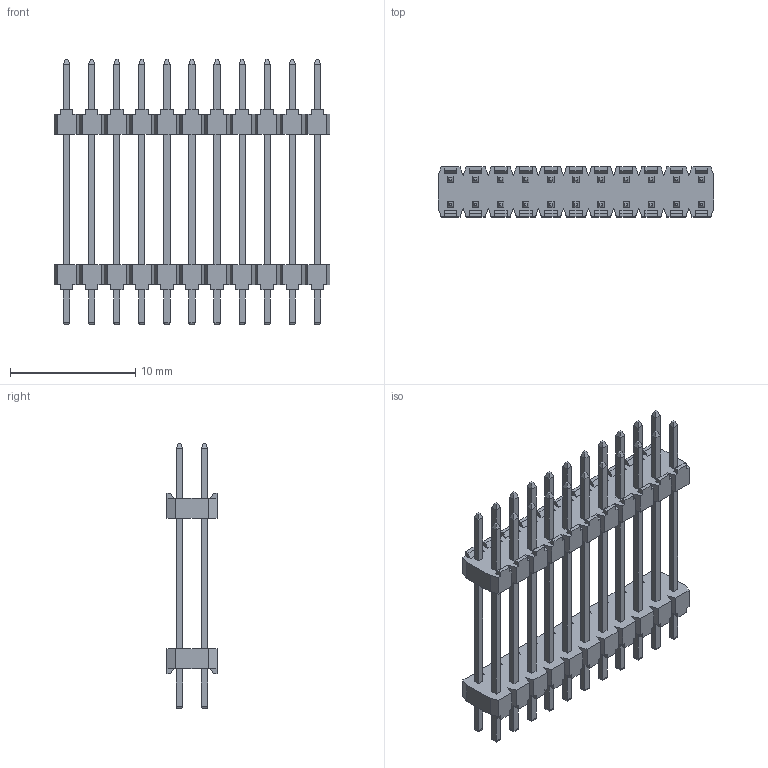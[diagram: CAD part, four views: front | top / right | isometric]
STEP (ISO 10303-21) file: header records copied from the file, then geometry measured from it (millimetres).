
FILE_DESCRIPTION(/* description */ (''),/* implementation_level */ '2;1');
FILE_NAME(/* name */ '951422-8012506-AR',/* time_stamp */ '2007-03-14T08:23:53+01:00',/* author */ (''),/* organization */ (''),/* preprocessor_version */ 'ST-DEVELOPER v9',/* originating_system */ 'UGS - NX 4.0',/* authorisation */ '');
FILE_SCHEMA (('AUTOMOTIVE_DESIGN { 1 0 10303 214 1 1 1 1 }'));
Length unit declared in the file: millimetre
Products named in the file (1): 951422-8012506-AR
Bounding box: 22 x 4 x 21.2 mm (x, y, z)
Volume: 374.4 mm3; surface area: 1373.5 mm2
Topology: 1 solids, 1 shells, 800 faces, 2080 edges, 1328 vertices
Faces by surface type: plane 712, cylinder 88
Entity records: 23912 total; most frequent: CARTESIAN_POINT 4209, ORIENTED_EDGE 4160, DIRECTION 3770, EDGE_CURVE 2080, LINE 1992, VECTOR 1992, VERTEX_POINT 1328, AXIS2_PLACEMENT_3D 889
